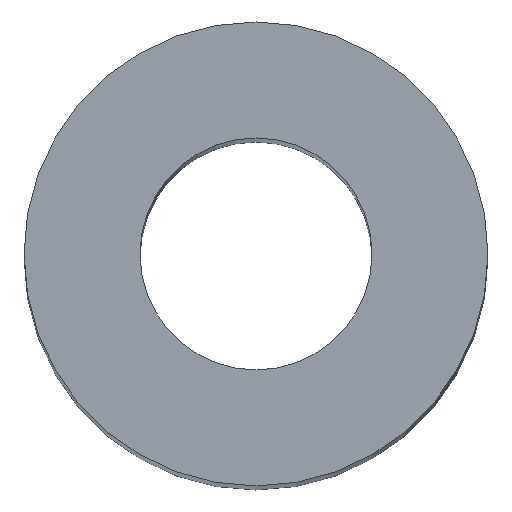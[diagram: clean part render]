
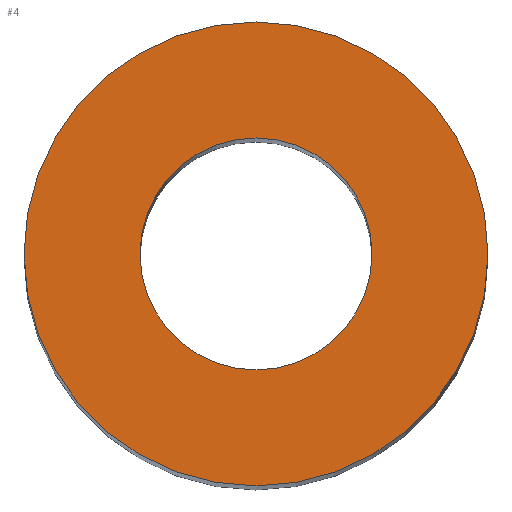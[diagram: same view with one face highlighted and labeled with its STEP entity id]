
A CAD part, top view. The second image highlights one B-rep face of the part: STEP entity #4.
In plain terms, the highlighted planar face has unit normal (0, 0, 1).
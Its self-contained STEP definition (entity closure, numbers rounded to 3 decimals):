
#2 = DIRECTION ( 'NONE',  ( 1., 0., 0. ) ) ;
#4 = ADVANCED_FACE ( 'NONE', ( #42, #175 ), #166, .T. ) ;
#5 = DIRECTION ( 'NONE',  ( 0., 0., 1. ) ) ;
#16 = VERTEX_POINT ( 'NONE', #157 ) ;
#17 = VERTEX_POINT ( 'NONE', #117 ) ;
#21 = CARTESIAN_POINT ( 'NONE',  ( 0., 0., 254. ) ) ;
#33 = EDGE_CURVE ( 'NONE', #17, #65, #165, .T. ) ;
#39 = DIRECTION ( 'NONE',  ( 1., 0., 0. ) ) ;
#40 = CARTESIAN_POINT ( 'NONE',  ( 0., 0., 254. ) ) ;
#42 = FACE_OUTER_BOUND ( 'NONE', #75, .T. ) ;
#48 = DIRECTION ( 'NONE',  ( 1., 0., 0. ) ) ;
#52 = AXIS2_PLACEMENT_3D ( 'NONE', #174, #142, #95 ) ;
#58 = ORIENTED_EDGE ( 'NONE', *, *, #33, .F. ) ;
#60 = EDGE_CURVE ( 'NONE', #65, #17, #102, .T. ) ;
#65 = VERTEX_POINT ( 'NONE', #79 ) ;
#75 = EDGE_LOOP ( 'NONE', ( #183, #82 ) ) ;
#79 = CARTESIAN_POINT ( 'NONE',  ( 12.5, 0., 254. ) ) ;
#82 = ORIENTED_EDGE ( 'NONE', *, *, #120, .T. ) ;
#84 = CARTESIAN_POINT ( 'NONE',  ( 0., 0., 254. ) ) ;
#85 = DIRECTION ( 'NONE',  ( 1., 0., 0. ) ) ;
#87 = DIRECTION ( 'NONE',  ( 0., 0., 1. ) ) ;
#93 = VERTEX_POINT ( 'NONE', #169 ) ;
#95 = DIRECTION ( 'NONE',  ( 1., 0., 0. ) ) ;
#99 = EDGE_LOOP ( 'NONE', ( #58, #122 ) ) ;
#102 = CIRCLE ( 'NONE', #207, 12.5 ) ;
#109 = AXIS2_PLACEMENT_3D ( 'NONE', #21, #114, #39 ) ;
#114 = DIRECTION ( 'NONE',  ( 0., 0., 1. ) ) ;
#117 = CARTESIAN_POINT ( 'NONE',  ( -12.5, 0., 254. ) ) ;
#118 = DIRECTION ( 'NONE',  ( 0., 0., 1. ) ) ;
#120 = EDGE_CURVE ( 'NONE', #93, #16, #156, .T. ) ;
#122 = ORIENTED_EDGE ( 'NONE', *, *, #60, .F. ) ;
#135 = CIRCLE ( 'NONE', #52, 25. ) ;
#142 = DIRECTION ( 'NONE',  ( 0., 0., 1. ) ) ;
#146 = AXIS2_PLACEMENT_3D ( 'NONE', #84, #5, #48 ) ;
#154 = AXIS2_PLACEMENT_3D ( 'NONE', #159, #118, #85 ) ;
#156 = CIRCLE ( 'NONE', #154, 25. ) ;
#157 = CARTESIAN_POINT ( 'NONE',  ( -25., 0., 254. ) ) ;
#159 = CARTESIAN_POINT ( 'NONE',  ( 0., 0., 254. ) ) ;
#165 = CIRCLE ( 'NONE', #109, 12.5 ) ;
#166 = PLANE ( 'NONE',  #146 ) ;
#169 = CARTESIAN_POINT ( 'NONE',  ( 25., 0., 254. ) ) ;
#174 = CARTESIAN_POINT ( 'NONE',  ( 0., 0., 254. ) ) ;
#175 = FACE_BOUND ( 'NONE', #99, .T. ) ;
#183 = ORIENTED_EDGE ( 'NONE', *, *, #198, .T. ) ;
#198 = EDGE_CURVE ( 'NONE', #16, #93, #135, .T. ) ;
#207 = AXIS2_PLACEMENT_3D ( 'NONE', #40, #87, #2 ) ;
